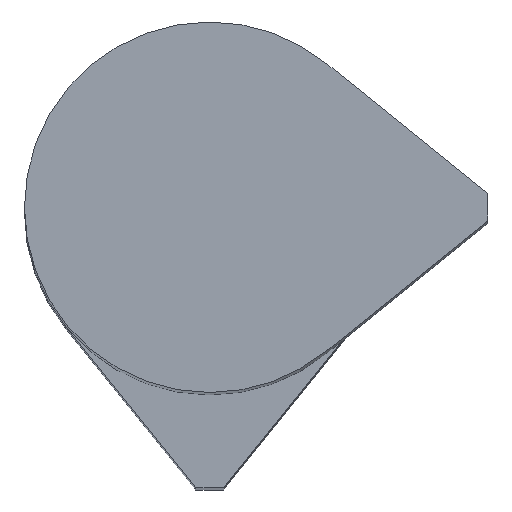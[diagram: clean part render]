
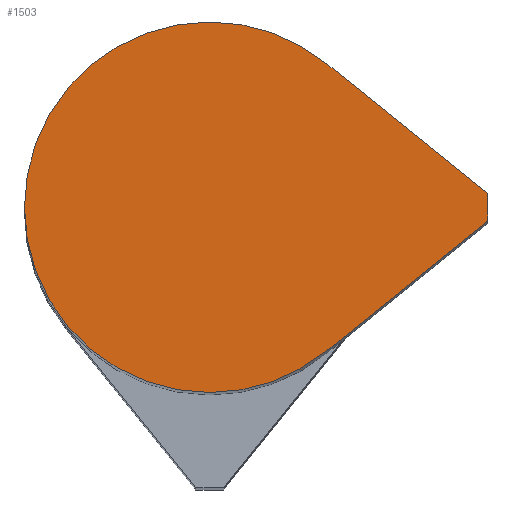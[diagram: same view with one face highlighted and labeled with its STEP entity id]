
A CAD part, top view. The second image highlights one B-rep face of the part: STEP entity #1503.
In plain terms, the highlighted planar face has unit normal (0, 0, 1) as drawn and (0, 0, -1) by its records, which use the part's own axes.
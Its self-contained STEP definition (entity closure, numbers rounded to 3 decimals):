
#54 = CARTESIAN_POINT ( 'NONE',  ( -10., 0., 0. ) ) ;
#97 = CARTESIAN_POINT ( 'NONE',  ( -0.75, -15., 0. ) ) ;
#151 = AXIS2_PLACEMENT_3D ( 'NONE', #179, #423, #433 ) ;
#179 = CARTESIAN_POINT ( 'NONE',  ( 0., 0., 0. ) ) ;
#181 = EDGE_LOOP ( 'NONE', ( #1744, #1623, #1607, #796, #713, #567 ) ) ;
#304 = CIRCLE ( 'NONE', #419, 10. ) ;
#332 = VERTEX_POINT ( 'NONE', #97 ) ;
#383 = PLANE ( 'NONE',  #151 ) ;
#419 = AXIS2_PLACEMENT_3D ( 'NONE', #466, #447, #545 ) ;
#423 = DIRECTION ( 'NONE',  ( 0., 0., 1. ) ) ;
#433 = DIRECTION ( 'NONE',  ( 1., 0., 0. ) ) ;
#447 = DIRECTION ( 'NONE',  ( 0., 0., 1. ) ) ;
#466 = CARTESIAN_POINT ( 'NONE',  ( 0., 0., 0. ) ) ;
#471 = VERTEX_POINT ( 'NONE', #1885 ) ;
#516 = FACE_OUTER_BOUND ( 'NONE', #181, .T. ) ;
#545 = DIRECTION ( 'NONE',  ( 1., 0., 0. ) ) ;
#563 = CARTESIAN_POINT ( 'NONE',  ( 10., 0., 0. ) ) ;
#567 = ORIENTED_EDGE ( 'NONE', *, *, #1309, .F. ) ;
#592 = VECTOR ( 'NONE', #1439, 1000. ) ;
#629 = EDGE_CURVE ( 'NONE', #1027, #1516, #1670, .T. ) ;
#648 = LINE ( 'NONE', #1409, #592 ) ;
#713 = ORIENTED_EDGE ( 'NONE', *, *, #1109, .F. ) ;
#766 = DIRECTION ( 'NONE',  ( 1., 0., 0. ) ) ;
#796 = ORIENTED_EDGE ( 'NONE', *, *, #1837, .F. ) ;
#869 = DIRECTION ( 'NONE',  ( 0., 0., 1. ) ) ;
#877 = VECTOR ( 'NONE', #1297, 1000. ) ;
#928 = CIRCLE ( 'NONE', #1350, 10. ) ;
#960 = CARTESIAN_POINT ( 'NONE',  ( 7.784, -6.277, 0. ) ) ;
#1027 = VERTEX_POINT ( 'NONE', #1378 ) ;
#1033 = CARTESIAN_POINT ( 'NONE',  ( 0., 0., 0. ) ) ;
#1045 = LINE ( 'NONE', #2071, #1474 ) ;
#1109 = EDGE_CURVE ( 'NONE', #1485, #471, #304, .T. ) ;
#1297 = DIRECTION ( 'NONE',  ( 0.628, 0.778, 0. ) ) ;
#1300 = EDGE_CURVE ( 'NONE', #1303, #1027, #1404, .T. ) ;
#1303 = VERTEX_POINT ( 'NONE', #1307 ) ;
#1307 = CARTESIAN_POINT ( 'NONE',  ( 0.75, -15., 0. ) ) ;
#1309 = EDGE_CURVE ( 'NONE', #1516, #1485, #928, .T. ) ;
#1350 = AXIS2_PLACEMENT_3D ( 'NONE', #1627, #1723, #1731 ) ;
#1372 = AXIS2_PLACEMENT_3D ( 'NONE', #1033, #869, #766 ) ;
#1378 = CARTESIAN_POINT ( 'NONE',  ( 7.784, -6.277, 0. ) ) ;
#1404 = LINE ( 'NONE', #960, #877 ) ;
#1409 = CARTESIAN_POINT ( 'NONE',  ( -0.75, -15., 0. ) ) ;
#1439 = DIRECTION ( 'NONE',  ( 0.628, -0.778, 0. ) ) ;
#1444 = EDGE_CURVE ( 'NONE', #332, #1303, #1045, .T. ) ;
#1474 = VECTOR ( 'NONE', #2096, 1000. ) ;
#1485 = VERTEX_POINT ( 'NONE', #54 ) ;
#1503 = ADVANCED_FACE ( 'NONE', ( #516 ), #383, .F. ) ;
#1516 = VERTEX_POINT ( 'NONE', #563 ) ;
#1607 = ORIENTED_EDGE ( 'NONE', *, *, #1444, .F. ) ;
#1623 = ORIENTED_EDGE ( 'NONE', *, *, #1300, .F. ) ;
#1627 = CARTESIAN_POINT ( 'NONE',  ( 0., 0., 0. ) ) ;
#1670 = CIRCLE ( 'NONE', #1372, 10. ) ;
#1723 = DIRECTION ( 'NONE',  ( 0., 0., 1. ) ) ;
#1731 = DIRECTION ( 'NONE',  ( 1., 0., 0. ) ) ;
#1744 = ORIENTED_EDGE ( 'NONE', *, *, #629, .F. ) ;
#1837 = EDGE_CURVE ( 'NONE', #471, #332, #648, .T. ) ;
#1885 = CARTESIAN_POINT ( 'NONE',  ( -7.784, -6.277, 0. ) ) ;
#2071 = CARTESIAN_POINT ( 'NONE',  ( 0.75, -15., 0. ) ) ;
#2096 = DIRECTION ( 'NONE',  ( 1., 0., 0. ) ) ;
